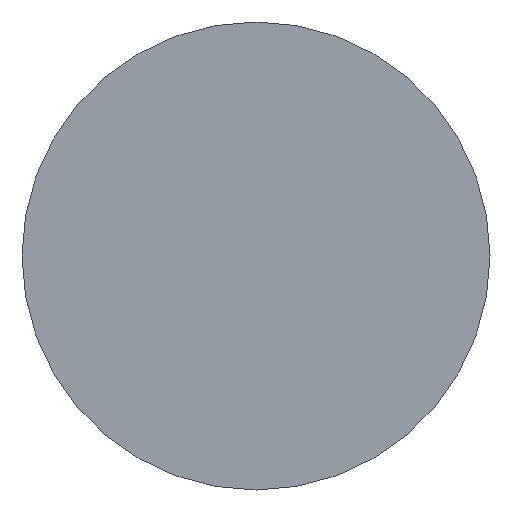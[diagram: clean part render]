
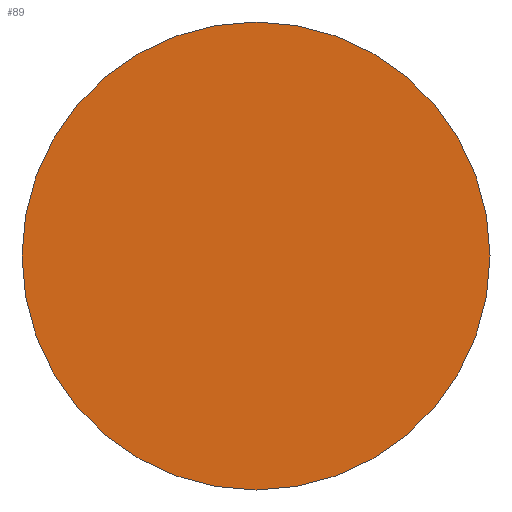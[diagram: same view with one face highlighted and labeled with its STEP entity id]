
A CAD part, left-side view. The second image highlights one B-rep face of the part: STEP entity #89.
In plain terms, the highlighted planar face has unit normal (-1, 0, 0).
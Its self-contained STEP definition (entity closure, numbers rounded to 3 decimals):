
#4 = ORIENTED_EDGE ( 'NONE', *, *, #220, .F. ) ;
#6 = DIRECTION ( 'NONE',  ( 0., 1., 0. ) ) ;
#11 = CIRCLE ( 'NONE', #106, 5. ) ;
#29 = EDGE_CURVE ( 'NONE', #154, #60, #11, .T. ) ;
#32 = CARTESIAN_POINT ( 'NONE',  ( 0., 0., 0. ) ) ;
#34 = PLANE ( 'NONE',  #191 ) ;
#57 = FACE_OUTER_BOUND ( 'NONE', #79, .T. ) ;
#60 = VERTEX_POINT ( 'NONE', #74 ) ;
#74 = CARTESIAN_POINT ( 'NONE',  ( 0., 5., 0. ) ) ;
#79 = EDGE_LOOP ( 'NONE', ( #4, #219 ) ) ;
#84 = CARTESIAN_POINT ( 'NONE',  ( 0., -5., 0. ) ) ;
#89 = ADVANCED_FACE ( 'NONE', ( #57 ), #34, .T. ) ;
#91 = CARTESIAN_POINT ( 'NONE',  ( 0., 0., 0. ) ) ;
#101 = CARTESIAN_POINT ( 'NONE',  ( 0., 0., 0. ) ) ;
#106 = AXIS2_PLACEMENT_3D ( 'NONE', #101, #145, #6 ) ;
#119 = DIRECTION ( 'NONE',  ( 0., 1., 0. ) ) ;
#136 = DIRECTION ( 'NONE',  ( 1., 0., 0. ) ) ;
#145 = DIRECTION ( 'NONE',  ( 1., 0., 0. ) ) ;
#154 = VERTEX_POINT ( 'NONE', #84 ) ;
#180 = DIRECTION ( 'NONE',  ( 0., -1., 0. ) ) ;
#186 = CIRCLE ( 'NONE', #272, 5. ) ;
#191 = AXIS2_PLACEMENT_3D ( 'NONE', #91, #262, #180 ) ;
#219 = ORIENTED_EDGE ( 'NONE', *, *, #29, .F. ) ;
#220 = EDGE_CURVE ( 'NONE', #60, #154, #186, .T. ) ;
#262 = DIRECTION ( 'NONE',  ( -1., 0., 0. ) ) ;
#272 = AXIS2_PLACEMENT_3D ( 'NONE', #32, #136, #119 ) ;
